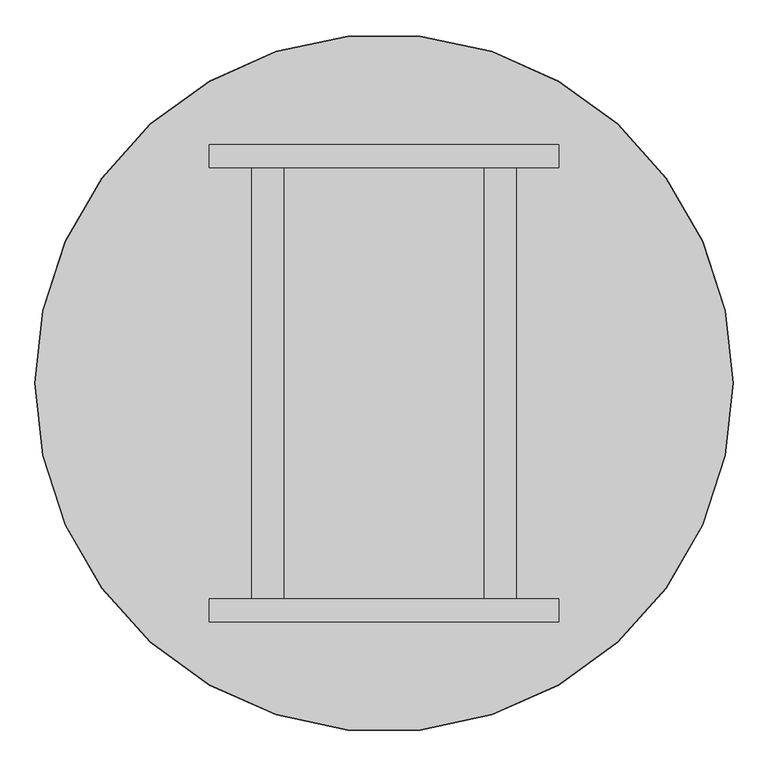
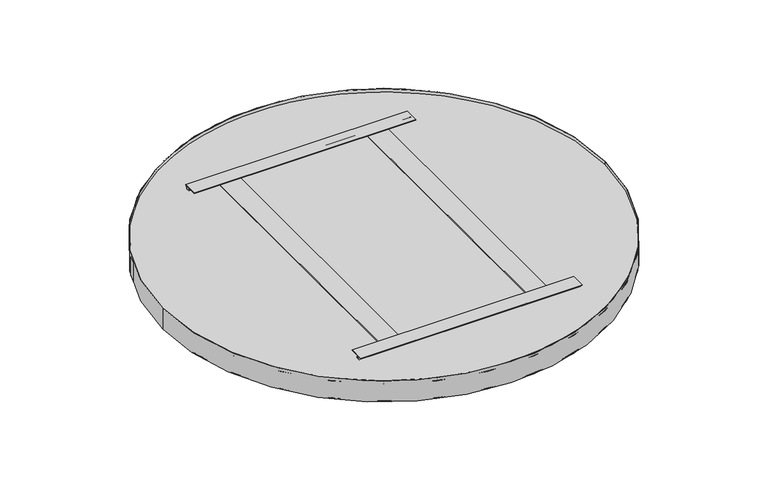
"""IFC4 building model written with IfcOpenShell, lengths in millimetres: proxy geometry, durlum_TOMEO-R-active : durlum_TOMEO-R-ACTIVE 1200."""

from ifc_helpers import new_model, si_unit, point, frame, origin, origin_with_axes, origin_2d, place, context, project, spatial, polyline, circle_curve, trimmed, segment, composite_curve, outline, extrude, source, transform, mapped, element, save


def generic_models_de489b00(model_context):
    return source(origin(), model_context, "Body", "SweptSolid", [
        extrude(outline(polyline([(56.0, 227.5), (56.0, 172.5), (54.0, 172.5), (54.0, 199.0), (3.0, 199.0), (3.0, 172.5), (1.0, 172.5), (1.0, 227.5), (3.0, 227.5), (3.0, 201.0), (54.0, 201.0), (54.0, 227.5), (56.0, 227.5)])), frame((0.0, -400.0, 0.0), z_axis=(0.0, 1.0, 0.0), x_axis=(0.0, 0.0, 1.0)), (0.0, 0.0, 1.0), 800.0),
        extrude(outline(polyline([(410.6306356, 60.0), (400.7059639, 48.0), (399.4373939, 48.0), (392.9842451, 53.6332485), (393.9405723, 54.7895514), (400.0, 49.5), (407.4435038, 58.5), (370.6306356, 58.5), (370.6306356, 60.0), (410.6306356, 60.0)])), frame((-300.0, 0.0, 0.0), z_axis=(1.0, 0.0, 0.0), x_axis=(0.0, 1.0, 0.0)), (0.0, 0.0, 1.0), 600.0),
        extrude(outline(polyline([(-410.6306356, 60.0), (-370.6306356, 60.0), (-370.6306356, 58.5), (-407.4435038, 58.5), (-400.0, 49.5), (-393.9405723, 54.7895514), (-392.9842451, 53.6332485), (-399.4373939, 48.0), (-400.7059639, 48.0), (-410.6306356, 60.0)])), frame((-300.0, 0.0, 0.0), z_axis=(1.0, 0.0, 0.0), x_axis=(0.0, 1.0, 0.0)), (0.0, 0.0, 1.0), 600.0),
        extrude(outline(polyline([(56.0, -172.5), (56.0, -227.5), (54.0, -227.5), (54.0, -201.0), (3.0, -201.0), (3.0, -227.5), (1.0, -227.5), (1.0, -172.5), (3.0, -172.5), (3.0, -199.0), (54.0, -199.0), (54.0, -172.5), (56.0, -172.5)])), frame((0.0, -400.0, 0.0), z_axis=(0.0, 1.0, 0.0), x_axis=(0.0, 0.0, 1.0)), (0.0, 0.0, 1.0), 800.0),
        extrude(outline(composite_curve([segment(trimmed(circle_curve(origin_2d(), 599.0), [point((-599.0, 0.0))], [point((599.0, 0.0))], False, "CARTESIAN"), True, "CONTINUOUS"), segment(trimmed(circle_curve(origin_2d(), 599.0), [point((599.0, 0.0))], [point((-599.0, 0.0))], False, "CARTESIAN"), True, "CONTINUOUS")], self_intersect=False)), frame((0.0, 0.0, 1.0), z_axis=(0.0, 0.0, 1.0), x_axis=(1.0, 0.0, 0.0)), (0.0, 0.0, 1.0), 50.2547795),
        extrude(outline(composite_curve([segment(trimmed(circle_curve(origin_2d(), 599.0), [point((-599.0, 0.0))], [point((599.0, 0.0))], False, "CARTESIAN"), True, "CONTINUOUS"), segment(trimmed(circle_curve(origin_2d(), 599.0), [point((599.0, 0.0))], [point((-599.0, 0.0))], False, "CARTESIAN"), True, "CONTINUOUS")], self_intersect=False)), frame((0.0, 0.0, 1.0), z_axis=(0.0, 0.0, 1.0), x_axis=(1.0, 0.0, 0.0)), (0.0, 0.0, 1.0), 1.0),
        extrude(outline(composite_curve([segment(trimmed(circle_curve(origin_2d(), 599.0), [point((-599.0, 0.0))], [point((599.0, 0.0))], False, "CARTESIAN"), True, "CONTINUOUS"), segment(trimmed(circle_curve(origin_2d(), 599.0), [point((599.0, 0.0))], [point((-599.0, 0.0))], False, "CARTESIAN"), True, "CONTINUOUS")], self_intersect=False)), origin_with_axes(), (0.0, 0.0, 1.0), 1.0),
        extrude(outline(composite_curve([segment(trimmed(circle_curve(origin_2d(), 600.0), [point((-600.0, 0.0))], [point((600.0, 0.0))], False, "CARTESIAN"), True, "CONTINUOUS"), segment(trimmed(circle_curve(origin_2d(), 600.0), [point((600.0, 0.0))], [point((-600.0, 0.0))], False, "CARTESIAN"), True, "CONTINUOUS")], self_intersect=False), holes=[composite_curve([segment(trimmed(circle_curve(origin_2d(), 599.0), [point((-599.0, 0.0))], [point((599.0, 0.0))], True, "CARTESIAN"), True, "CONTINUOUS"), segment(trimmed(circle_curve(origin_2d(), 599.0), [point((599.0, 0.0))], [point((-599.0, 0.0))], True, "CARTESIAN"), True, "CONTINUOUS")], self_intersect=False)]), origin_with_axes(), (0.0, 0.0, 1.0), 60.0),
    ])


if __name__ == "__main__":
    model = new_model("IFC4")
    model_context = context("Model", 3, world=origin())
    ifc_project = project(units=[si_unit("LENGTHUNIT", "METRE", prefix="MILLI")], contexts=[model_context])
    site = spatial("IfcSite", under=ifc_project)
    building = spatial("IfcBuilding", under=site)
    placement = place(None, origin())
    generic_models_shape = generic_models_de489b00(model_context)
    element("IfcBuildingElementProxy", 1, Name="durlum_TOMEO-R-active : durlum_TOMEO-R-ACTIVE 1200", ObjectType="durlum_TOMEO-R-active : durlum_TOMEO-R-ACTIVE 1200", at=placement, inside=building, context=model_context, shape_type="MappedRepresentation", body=[
        mapped(generic_models_shape, transform((0.0, 0.0, 0.0), x_axis=(1.0, 0.0, 0.0), y_axis=(0.0, 1.0, 0.0), z_axis=(0.0, 0.0, 1.0))),
    ])
    save(model, "model.ifc")
